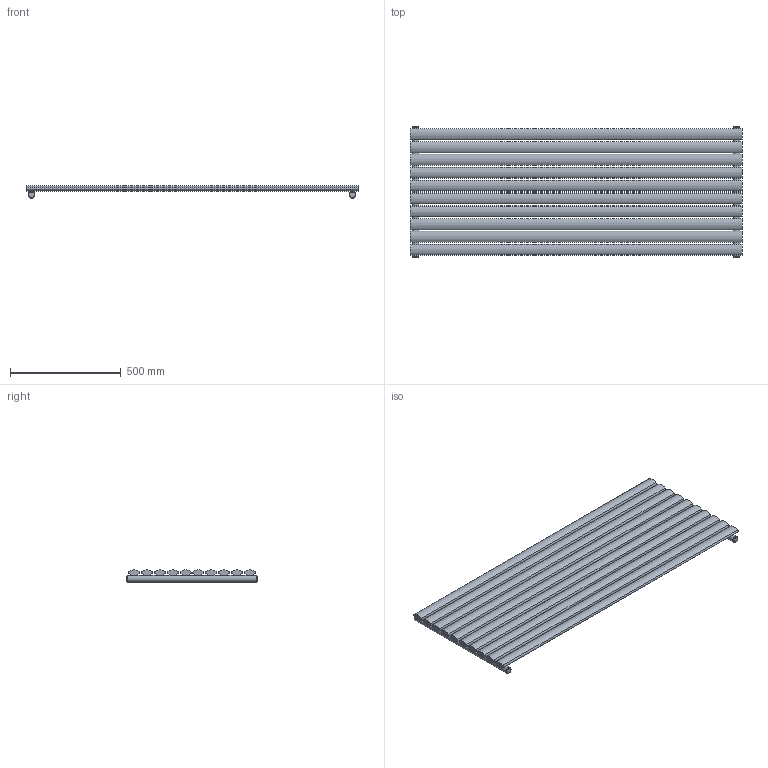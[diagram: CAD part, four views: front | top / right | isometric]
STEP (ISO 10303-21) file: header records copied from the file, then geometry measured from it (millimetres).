
FILE_DESCRIPTION(/* description */ (''),/* implementation_level */ '2;1');
FILE_NAME(/* name */ 'C:\Grzejniki\13DLUXRAD\pokojowe\FORTUNA\FORTUNA POJEDYNCZA 1500x584.iam.stp',/* time_stamp */ '2016-06-28T17:32:14+02:00',/* author */ ('m.szydziak'),/* organization */ (''),/* preprocessor_version */ 'ST-DEVELOPER v16.5',/* originating_system */ 'Autodesk Inventor 2017',/* authorisation */ '');
FILE_SCHEMA (('AUTOMOTIVE_DESIGN { 1 0 10303 214 3 1 1 }'));
Length unit declared in the file: millimetre
Products named in the file (5): FORTUNA POJEDYNCZA 1500x584; %%c30x1,5x584; 50x25x1,2x1500; zaślepka fi30 G0,5inch; korek
Assembly tree (20 placements, depth 2):
  FORTUNA POJEDYNCZA 1500x584
    %%c30x1,5x584  x2
    50x25x1,2x1500  x10
    zaślepka fi30 G0,5inch  x4
    korek  x4
Bounding box: 1500 x 596 x 54.86 mm (x, y, z)
Volume: 14563193.9 mm3; surface area: 2044594.5 mm2
Topology: 20 solids, 20 shells, 164 faces, 416 edges, 292 vertices
Faces by surface type: plane 88, cylinder 76
Full cylindrical faces by diameter (mm): 5 x20, 18.631 x4, 24 x4, 27 x6, 30 x2
Entity records: 2075 total; most frequent: CARTESIAN_POINT 902, DIRECTION 214, ORIENTED_EDGE 174, AXIS2_PLACEMENT_3D 93, EDGE_CURVE 87, EDGE_LOOP 78, VERTEX_POINT 71, FACE_BOUND 39
